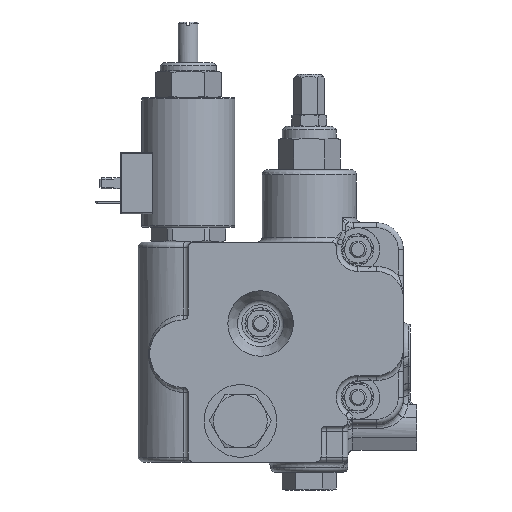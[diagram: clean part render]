
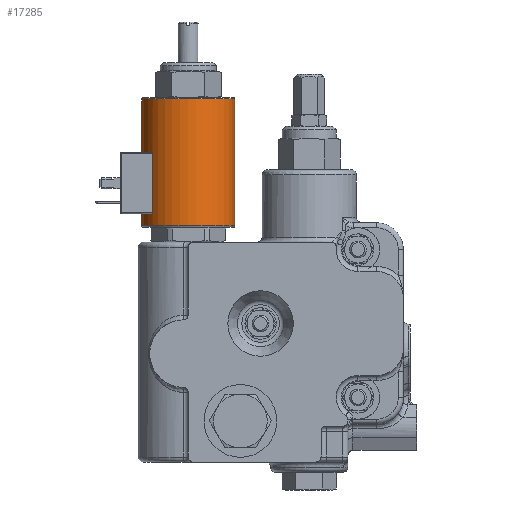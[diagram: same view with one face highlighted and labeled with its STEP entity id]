
A CAD part, left-side view. The second image highlights one B-rep face of the part: STEP entity #17285.
In plain terms, the highlighted cylindrical face has radius 22.047 mm (diameter 44.094 mm), a full revolution.
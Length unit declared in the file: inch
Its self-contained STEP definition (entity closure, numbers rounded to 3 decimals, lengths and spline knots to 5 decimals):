
#17158=CARTESIAN_POINT('',(-0.868,0.0215,0.0));
#17159=VERTEX_POINT('',#17158);
#17160=CARTESIAN_POINT('',(0.0,0.0215,0.0));
#17161=DIRECTION('',(0.0,-1.0,0.0));
#17162=DIRECTION('',(1.0,0.0,0.0));
#17163=AXIS2_PLACEMENT_3D('',#17160,#17161,#17162);
#17164=CIRCLE('',#17163,0.868);
#17165=EDGE_CURVE('',#17159,#17159,#17164,.T.);
#17170=CARTESIAN_POINT('',(0.0,0.0,0.0));
#17171=DIRECTION('',(0.0,1.0,0.0));
#17172=DIRECTION('',(1.0,0.0,0.0));
#17173=AXIS2_PLACEMENT_3D('',#17170,#17171,#17172);
#17174=CYLINDRICAL_SURFACE('',#17173,0.868);
#17175=CARTESIAN_POINT('',(-0.868,2.3845,0.0));
#17176=VERTEX_POINT('',#17175);
#17177=CARTESIAN_POINT('',(0.0,2.3845,0.0));
#17178=DIRECTION('',(0.0,1.0,0.0));
#17179=DIRECTION('',(1.0,0.0,0.0));
#17180=AXIS2_PLACEMENT_3D('',#17177,#17178,#17179);
#17181=CIRCLE('',#17180,0.868);
#17182=EDGE_CURVE('',#17176,#17176,#17181,.T.);
#17183=ORIENTED_EDGE('',*,*,#17182,.F.);
#17184=EDGE_LOOP('',(#17183));
#17185=FACE_OUTER_BOUND('',#17184,.T.);
#17186=CARTESIAN_POINT('',(0.5665,0.2665,0.65765));
#17187=VERTEX_POINT('',#17186);
#17188=CARTESIAN_POINT('',(0.5665,1.3655,0.65765));
#17189=VERTEX_POINT('',#17188);
#17190=CARTESIAN_POINT('',(0.5665,0.2665,0.65765));
#17191=DIRECTION('',(0.0,1.0,0.0));
#17192=VECTOR('',#17191,1.099);
#17193=LINE('',#17190,#17192);
#17194=EDGE_CURVE('',#17187,#17189,#17193,.T.);
#17195=ORIENTED_EDGE('',*,*,#17194,.F.);
#17196=CARTESIAN_POINT('',(0.545,0.245,0.67557));
#17197=VERTEX_POINT('',#17196);
#17198=CARTESIAN_POINT('',(0.5665,0.2665,0.65765));
#17199=CARTESIAN_POINT('',(0.5665,0.26382,0.65765));
#17200=CARTESIAN_POINT('',(0.56597,0.26104,0.65811));
#17201=CARTESIAN_POINT('',(0.56398,0.25604,0.65981));
#17202=CARTESIAN_POINT('',(0.56253,0.25383,0.66105));
#17203=CARTESIAN_POINT('',(0.55889,0.2498,0.66413));
#17204=CARTESIAN_POINT('',(0.55631,0.24796,0.6663));
#17205=CARTESIAN_POINT('',(0.55074,0.24556,0.67091));
#17206=CARTESIAN_POINT('',(0.54777,0.245,0.67334));
#17207=CARTESIAN_POINT('',(0.545,0.245,0.67557));
#17208=B_SPLINE_CURVE_WITH_KNOTS('',3,(#17198,#17199,#17200,#17201,#17202,#17203,#17204,#17205,#17206,#17207),.UNSPECIFIED.,.F.,.U.,(4,2,2,2,4),(-0.18883,-0.16842,-0.14801,-0.12089,-0.09378),.UNSPECIFIED.);
#17209=EDGE_CURVE('',#17187,#17197,#17208,.T.);
#17210=ORIENTED_EDGE('',*,*,#17209,.T.);
#17211=CARTESIAN_POINT('',(-0.545,0.245,0.67557));
#17212=VERTEX_POINT('',#17211);
#17213=CARTESIAN_POINT('',(0.0,0.245,0.0));
#17214=DIRECTION('',(0.0,1.,0.0));
#17215=DIRECTION('',(-0.628,0.0,0.778));
#17216=AXIS2_PLACEMENT_3D('',#17213,#17214,#17215);
#17217=CIRCLE('',#17216,0.868);
#17218=EDGE_CURVE('',#17212,#17197,#17217,.T.);
#17219=ORIENTED_EDGE('',*,*,#17218,.F.);
#17220=CARTESIAN_POINT('',(-0.5665,0.2665,0.65765));
#17221=VERTEX_POINT('',#17220);
#17222=CARTESIAN_POINT('',(-0.545,0.245,0.67557));
#17223=CARTESIAN_POINT('',(-0.54777,0.245,0.67334));
#17224=CARTESIAN_POINT('',(-0.55074,0.24556,0.67091));
#17225=CARTESIAN_POINT('',(-0.55631,0.24796,0.6663));
#17226=CARTESIAN_POINT('',(-0.55889,0.2498,0.66413));
#17227=CARTESIAN_POINT('',(-0.56253,0.25383,0.66105));
#17228=CARTESIAN_POINT('',(-0.56398,0.25604,0.65981));
#17229=CARTESIAN_POINT('',(-0.56597,0.26104,0.65811));
#17230=CARTESIAN_POINT('',(-0.5665,0.26382,0.65765));
#17231=CARTESIAN_POINT('',(-0.5665,0.2665,0.65765));
#17232=B_SPLINE_CURVE_WITH_KNOTS('',3,(#17222,#17223,#17224,#17225,#17226,#17227,#17228,#17229,#17230,#17231),.UNSPECIFIED.,.F.,.U.,(4,2,2,2,4),(-0.09505,-0.06794,-0.04082,-0.02041,0.0),.UNSPECIFIED.);
#17233=EDGE_CURVE('',#17212,#17221,#17232,.T.);
#17234=ORIENTED_EDGE('',*,*,#17233,.T.);
#17235=CARTESIAN_POINT('',(-0.5665,1.3655,0.65765));
#17236=VERTEX_POINT('',#17235);
#17237=CARTESIAN_POINT('',(-0.5665,0.2665,0.65765));
#17238=DIRECTION('',(0.0,1.0,0.0));
#17239=VECTOR('',#17238,1.099);
#17240=LINE('',#17237,#17239);
#17241=EDGE_CURVE('',#17221,#17236,#17240,.T.);
#17242=ORIENTED_EDGE('',*,*,#17241,.T.);
#17243=CARTESIAN_POINT('',(-0.545,1.387,0.67557));
#17244=VERTEX_POINT('',#17243);
#17245=CARTESIAN_POINT('',(-0.5665,1.3655,0.65765));
#17246=CARTESIAN_POINT('',(-0.5665,1.36818,0.65765));
#17247=CARTESIAN_POINT('',(-0.56597,1.37096,0.65811));
#17248=CARTESIAN_POINT('',(-0.56398,1.37596,0.65981));
#17249=CARTESIAN_POINT('',(-0.56253,1.37817,0.66105));
#17250=CARTESIAN_POINT('',(-0.55889,1.3822,0.66413));
#17251=CARTESIAN_POINT('',(-0.55631,1.38404,0.6663));
#17252=CARTESIAN_POINT('',(-0.55074,1.38644,0.67091));
#17253=CARTESIAN_POINT('',(-0.54777,1.387,0.67334));
#17254=CARTESIAN_POINT('',(-0.545,1.387,0.67557));
#17255=B_SPLINE_CURVE_WITH_KNOTS('',3,(#17245,#17246,#17247,#17248,#17249,#17250,#17251,#17252,#17253,#17254),.UNSPECIFIED.,.F.,.U.,(4,2,2,2,4),(-0.37766,-0.35725,-0.33684,-0.30972,-0.28261),.UNSPECIFIED.);
#17256=EDGE_CURVE('',#17236,#17244,#17255,.T.);
#17257=ORIENTED_EDGE('',*,*,#17256,.T.);
#17258=CARTESIAN_POINT('',(0.545,1.387,0.67557));
#17259=VERTEX_POINT('',#17258);
#17260=CARTESIAN_POINT('',(0.0,1.387,0.0));
#17261=DIRECTION('',(0.0,1.,0.0));
#17262=DIRECTION('',(-0.628,0.0,0.778));
#17263=AXIS2_PLACEMENT_3D('',#17260,#17261,#17262);
#17264=CIRCLE('',#17263,0.868);
#17265=EDGE_CURVE('',#17244,#17259,#17264,.T.);
#17266=ORIENTED_EDGE('',*,*,#17265,.T.);
#17267=CARTESIAN_POINT('',(0.545,1.387,0.67557));
#17268=CARTESIAN_POINT('',(0.54777,1.387,0.67334));
#17269=CARTESIAN_POINT('',(0.55074,1.38644,0.67091));
#17270=CARTESIAN_POINT('',(0.55631,1.38404,0.6663));
#17271=CARTESIAN_POINT('',(0.55889,1.3822,0.66413));
#17272=CARTESIAN_POINT('',(0.56253,1.37817,0.66105));
#17273=CARTESIAN_POINT('',(0.56398,1.37596,0.65981));
#17274=CARTESIAN_POINT('',(0.56597,1.37096,0.65811));
#17275=CARTESIAN_POINT('',(0.5665,1.36818,0.65765));
#17276=CARTESIAN_POINT('',(0.5665,1.3655,0.65765));
#17277=B_SPLINE_CURVE_WITH_KNOTS('',3,(#17267,#17268,#17269,#17270,#17271,#17272,#17273,#17274,#17275,#17276),.UNSPECIFIED.,.F.,.U.,(4,2,2,2,4),(-0.28388,-0.25677,-0.22966,-0.20924,-0.18883),.UNSPECIFIED.);
#17278=EDGE_CURVE('',#17259,#17189,#17277,.T.);
#17279=ORIENTED_EDGE('',*,*,#17278,.T.);
#17280=EDGE_LOOP('',(#17195,#17210,#17219,#17234,#17242,#17257,#17266,#17279));
#17281=FACE_BOUND('',#17280,.T.);
#17282=ORIENTED_EDGE('',*,*,#17165,.F.);
#17283=EDGE_LOOP('',(#17282));
#17284=FACE_BOUND('',#17283,.T.);
#17285=ADVANCED_FACE('',(#17185,#17281,#17284),#17174,.T.);
